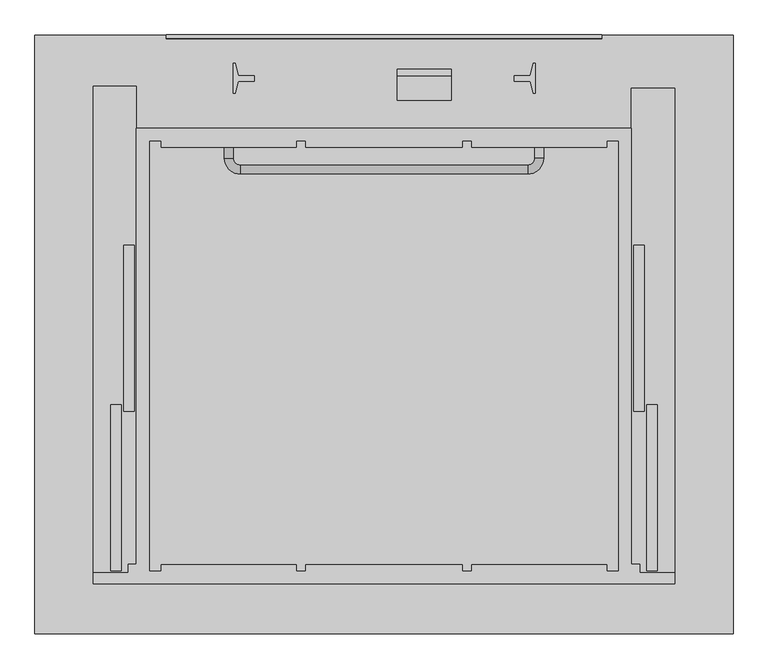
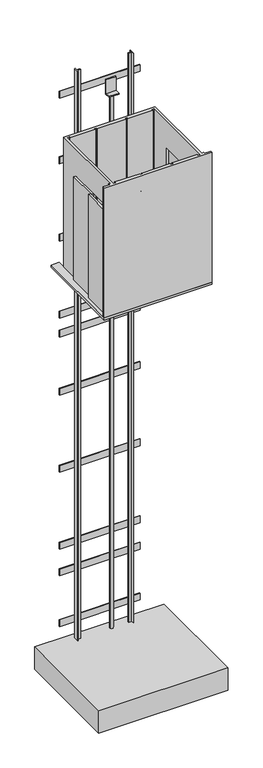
"""IFC4 building model written with IfcOpenShell, lengths in millimetres: proxy geometry, Orion_Savaria : Orion_Savaria."""

from ifc_helpers import new_model, si_unit, point, frame, frame_2d, origin, place, context, project, spatial, polyline, circle_curve, ellipse_curve, trimmed, segment, composite_curve, outline, extrude, faceted_brep, source, transform, mapped, element, save
from ifc_brep_helpers import plane_surface, cylinder_surface, revolved_surface, advanced_brep


def specialty_equipment_7eabac19(model_context):
    return source(origin(), model_context, "Body", "SolidModel", [
        faceted_brep([(852.0554501, -730.25, 8579.4453125), (852.0554501, -698.50091, 8579.4453125), (749.3454779, -698.50091, 8579.4453125), (749.3454779, -673.1, 8579.4453125), (723.9, -673.1, 8579.4453125), (723.9, 603.25, 8579.4453125), (-725.0554194, 603.25, 8579.4453125), (-725.0554194, -673.1, 8579.4453125), (-749.3454779, -673.1, 8579.4453125), (-749.3454779, -698.50091, 8579.4453125), (-850.9, -698.50091, 8579.4453125), (-850.9, -730.25, 8579.4453125), (-685.8, 565.15, 8579.4453125), (-654.05, 565.15, 8579.4453125), (-654.05, 546.1, 8579.4453125), (-255.5875, 546.1, 8579.4453125), (-255.5875, 565.15, 8579.4453125), (-230.1875, 565.15, 8579.4453125), (-230.1875, 546.1, 8579.4453125), (230.1875, 546.1, 8579.4453125), (230.1875, 565.15, 8579.4453125), (255.5875, 565.15, 8579.4453125), (255.5875, 546.1, 8579.4453125), (654.05, 546.1, 8579.4453125), (654.05, 565.15, 8579.4453125), (685.8, 565.15, 8579.4453125), (685.8, -692.15, 8579.4453125), (654.05, -692.15, 8579.4453125), (654.05, -673.1, 8579.4453125), (255.5875, -673.1, 8579.4453125), (255.5875, -692.15, 8579.4453125), (230.1875, -692.15, 8579.4453125), (230.1875, -673.1, 8579.4453125), (-230.1875, -673.1, 8579.4453125), (-230.1875, -692.15, 8579.4453125), (-255.5875, -692.15, 8579.4453125), (-255.5875, -673.1, 8579.4453125), (-654.05, -673.1, 8579.4453125), (-654.05, -692.15, 8579.4453125), (-685.8454577, -692.15, 8579.4453125), (852.0554501, -730.25, 6410.9203125), (-850.9, -730.25, 6410.9203125), (-850.9, -698.50091, 6410.9203125), (-749.3454779, -698.50091, 6410.9203125), (-749.3454779, -673.1, 6410.9203125), (-685.8454577, -673.1, 6410.9203125), (-685.8454577, -692.15, 6410.9203125), (-654.05, -692.15, 6410.9203125), (-654.05, -673.1, 6410.9203125), (-255.5875, -673.1, 6410.9203125), (-255.5875, -692.15, 6410.9203125), (-230.1875, -692.15, 6410.9203125), (-230.1875, -673.1, 6410.9203125), (230.1875, -673.1, 6410.9203125), (230.1875, -692.15, 6410.9203125), (255.5875, -692.15, 6410.9203125), (255.5875, -673.1, 6410.9203125), (654.05, -673.1, 6410.9203125), (654.05, -692.15, 6410.9203125), (685.8, -692.15, 6410.9203125), (685.8, -673.1, 6410.9203125), (749.3454779, -673.1, 6410.9203125), (749.3454779, -698.50091, 6410.9203125), (852.0554501, -698.50091, 6410.9203125), (-725.0554194, 603.25, 6410.9203125), (723.9, 603.25, 6410.9203125), (723.9, 241.3, 6410.9203125), (685.8, 241.3, 6410.9203125), (685.8, 565.15, 6410.9203125), (654.05, 565.15, 6410.9203125), (654.05, 546.1, 6410.9203125), (255.5875, 546.1, 6410.9203125), (255.5875, 565.15, 6410.9203125), (230.1875, 565.15, 6410.9203125), (230.1875, 546.1, 6410.9203125), (-230.1875, 546.1, 6410.9203125), (-230.1875, 565.15, 6410.9203125), (-255.5875, 565.15, 6410.9203125), (-255.5875, 546.1, 6410.9203125), (-654.05, 546.1, 6410.9203125), (-654.05, 565.15, 6410.9203125), (-685.8, 565.15, 6410.9203125), (-685.8, 241.3, 6410.9203125), (-725.0554194, 241.3, 6410.9203125), (685.8, -673.1, 8138.1203125), (723.9, -673.1, 8138.1203125), (685.8, 241.3, 8138.1203125), (-685.8454577, -673.1, 8138.1203125), (-685.8454577, 241.3, 8138.1203125), (-725.0554194, -673.1, 8138.1203125), (-725.0554194, 241.3, 8138.1203125), (723.9, 241.3, 8138.1203125)], [[[0, 1, 2, 3, 4, 5, 6, 7, 8, 9, 10, 11], [12, 13, 14, 15, 16, 17, 18, 19, 20, 21, 22, 23, 24, 25, 26, 27, 28, 29, 30, 31, 32, 33, 34, 35, 36, 37, 38, 39]], [[40, 41, 42, 43, 44, 45, 46, 47, 48, 49, 50, 51, 52, 53, 54, 55, 56, 57, 58, 59, 60, 61, 62, 63]], [[64, 65, 66, 67, 68, 69, 70, 71, 72, 73, 74, 75, 76, 77, 78, 79, 80, 81, 82, 83]], [[1, 0, 40, 63]], [[2, 1, 63, 62]], [[3, 2, 62, 61]], [[61, 60, 84, 85, 4, 3]], [[26, 25, 68, 67, 86, 84, 60, 59]], [[27, 26, 59, 58]], [[28, 27, 58, 57]], [[29, 28, 57, 56]], [[30, 29, 56, 55]], [[31, 30, 55, 54]], [[32, 31, 54, 53]], [[33, 32, 53, 52]], [[34, 33, 52, 51]], [[35, 34, 51, 50]], [[36, 35, 50, 49]], [[37, 36, 49, 48]], [[38, 37, 48, 47]], [[39, 38, 47, 46]], [[12, 39, 46, 45, 87, 88, 82, 81]], [[45, 44, 8, 7, 89, 87]], [[9, 8, 44, 43]], [[10, 9, 43, 42]], [[11, 10, 42, 41]], [[0, 11, 41, 40]], [[7, 6, 64, 83, 90, 89]], [[83, 82, 88, 90]], [[13, 12, 81, 80]], [[14, 13, 80, 79]], [[15, 14, 79, 78]], [[16, 15, 78, 77]], [[17, 16, 77, 76]], [[18, 17, 76, 75]], [[19, 18, 75, 74]], [[20, 19, 74, 73]], [[21, 20, 73, 72]], [[22, 21, 72, 71]], [[23, 22, 71, 70]], [[24, 23, 70, 69]], [[25, 24, 69, 68]], [[67, 66, 91, 86]], [[5, 4, 85, 91, 66, 65]], [[6, 5, 65, 64]], [[88, 87, 89, 90]], [[91, 85, 84, 86]]]),
        extrude(outline(polyline([(637.032, 866.775), (-637.032, 866.775), (-637.032, 876.3), (637.032, 876.3), (637.032, 866.775)])), frame((0.0, 0.0, 9039.4267343), z_axis=(0.0, 0.0, 1.0), x_axis=(1.0, 0.0, 0.0)), (0.0, 0.0, 1.0), 110.8208849),
        extrude(outline(polyline([(637.032, 866.775), (-637.032, 866.775), (-637.032, 876.3), (637.032, 876.3), (637.032, 866.775)])), frame((0.0, 0.0, 7939.7083343), z_axis=(0.0, 0.0, 1.0), x_axis=(1.0, 0.0, 0.0)), (0.0, 0.0, 1.0), 110.8208849),
        extrude(outline(polyline([(637.032, 866.775), (-637.032, 866.775), (-637.032, 876.3), (637.032, 876.3), (637.032, 866.775)])), frame((0.0, 0.0, 6652.2331343), z_axis=(0.0, 0.0, 1.0), x_axis=(1.0, 0.0, 0.0)), (0.0, 0.0, 1.0), 110.8208849),
        extrude(outline(polyline([(637.032, 866.775), (-637.032, 866.775), (-637.032, 876.3), (637.032, 876.3), (637.032, 866.775)])), frame((0.0, 0.0, 5364.7579343), z_axis=(0.0, 0.0, 1.0), x_axis=(1.0, 0.0, 0.0)), (0.0, 0.0, 1.0), 110.8208849),
        extrude(outline(polyline([(637.032, 866.775), (-637.032, 866.775), (-637.032, 876.3), (637.032, 876.3), (637.032, 866.775)])), frame((0.0, 0.0, 5047.6404), z_axis=(0.0, 0.0, 1.0), x_axis=(1.0, 0.0, 0.0)), (0.0, 0.0, 1.0), 110.8208849),
        extrude(outline(polyline([(637.032, 866.775), (-637.032, 866.775), (-637.032, 876.3), (637.032, 876.3), (637.032, 866.775)])), frame((0.0, 0.0, 4077.2827343), z_axis=(0.0, 0.0, 1.0), x_axis=(1.0, 0.0, 0.0)), (0.0, 0.0, 1.0), 110.8208849),
        extrude(outline(polyline([(637.032, 866.775), (-637.032, 866.775), (-637.032, 876.3), (637.032, 876.3), (637.032, 866.775)])), frame((0.0, 0.0, 2789.8075343), z_axis=(0.0, 0.0, 1.0), x_axis=(1.0, 0.0, 0.0)), (0.0, 0.0, 1.0), 110.8208849),
        extrude(outline(polyline([(637.032, 866.775), (-637.032, 866.775), (-637.032, 876.3), (637.032, 876.3), (637.032, 866.775)])), frame((0.0, 0.0, 1502.3323343), z_axis=(0.0, 0.0, 1.0), x_axis=(1.0, 0.0, 0.0)), (0.0, 0.0, 1.0), 110.8208849),
        extrude(outline(polyline([(637.032, 866.775), (-637.032, 866.775), (-637.032, 876.3), (637.032, 876.3), (637.032, 866.775)])), frame((0.0, 0.0, 1059.4848), z_axis=(0.0, 0.0, 1.0), x_axis=(1.0, 0.0, 0.0)), (0.0, 0.0, 1.0), 110.8208849),
        advanced_brep(
        [(-467.51875, 546.1, 7325.3203125), (-442.11875, 546.1, 7325.3203125), (-467.51875, 515.9327248, 7325.3203125), (-442.11875, 515.9327248, 7325.3203125), (-421.522529, 495.3365038, 7325.3203125), (-421.522529, 469.9365038, 7325.3203125), (421.48125, 469.9365038, 7325.3203125), (421.48125, 495.3365038, 7325.3203125), (442.11875, 515.9740038, 7325.3203125), (467.51875, 515.9740038, 7325.3203125), (467.51875, 546.1, 7325.3203125), (442.11875, 546.1, 7325.3203125)],
        [
            (0, 1, circle_curve(frame((-454.81875, 546.1, 7325.3203125), z_axis=(0.0, 1.0, 0.0), x_axis=(1.0, 0.0, 0.0)), 12.7)),
            (1, 0, circle_curve(frame((-454.81875, 546.1, 7325.3203125), z_axis=(0.0, 1.0, 0.0), x_axis=(1.0, 0.0, 0.0)), 12.7)),
            (0, 2),
            (2, 3, circle_curve(frame((-454.81875, 515.9327248, 7325.3203125), z_axis=(0.0, 1.0, 0.0), x_axis=(1.0, 0.0, 0.0)), 12.7)),
            (3, 1),
            (3, 2, circle_curve(frame((-454.81875, 515.9327248, 7325.3203125), z_axis=(0.0, 1.0, 0.0), x_axis=(1.0, 0.0, 0.0)), 12.7)),
            (4, 3, circle_curve(frame((-421.522529, 515.9327248, 7325.3203125), z_axis=(0.0, 0.0, -1.0), x_axis=(-1.0, 0.0, 0.0)), 20.596221)),
            (2, 5, circle_curve(frame((-421.522529, 515.9327248, 7325.3203125), z_axis=(0.0, 0.0, 1.0), x_axis=(-1.0, 0.0, 0.0)), 45.996221)),
            (5, 4, circle_curve(frame((-421.522529, 482.6365038, 7325.3203125), z_axis=(-1.0, 0.0, 0.0), x_axis=(0.0, 1.0, 0.0)), 12.7)),
            (4, 5, circle_curve(frame((-421.522529, 482.6365038, 7325.3203125), z_axis=(-1.0, 0.0, 0.0), x_axis=(0.0, 1.0, 0.0)), 12.7)),
            (5, 6),
            (6, 7, circle_curve(frame((421.48125, 482.6365038, 7325.3203125), z_axis=(-1.0, 0.0, 0.0), x_axis=(0.0, 1.0, 0.0)), 12.7)),
            (7, 4),
            (7, 6, circle_curve(frame((421.48125, 482.6365038, 7325.3203125), z_axis=(-1.0, 0.0, 0.0), x_axis=(0.0, 1.0, 0.0)), 12.7)),
            (8, 7, circle_curve(frame((421.48125, 515.9740038, 7325.3203125), z_axis=(0.0, 0.0, -1.0), x_axis=(0.0, -1.0, 0.0)), 20.6375)),
            (6, 9, circle_curve(frame((421.48125, 515.9740038, 7325.3203125), z_axis=(0.0, 0.0, 1.0), x_axis=(0.0, -1.0, 0.0)), 46.0375)),
            (9, 8, circle_curve(frame((454.81875, 515.9740038, 7325.3203125), z_axis=(0.0, -1.0, 0.0), x_axis=(-1.0, 0.0, 0.0)), 12.7)),
            (8, 9, circle_curve(frame((454.81875, 515.9740038, 7325.3203125), z_axis=(0.0, -1.0, 0.0), x_axis=(-1.0, 0.0, 0.0)), 12.7)),
            (10, 11, circle_curve(frame((454.81875, 546.1, 7325.3203125), z_axis=(0.0, 1.0, 0.0), x_axis=(-1.0, 0.0, 0.0)), 12.7)),
            (11, 10, circle_curve(frame((454.81875, 546.1, 7325.3203125), z_axis=(0.0, 1.0, 0.0), x_axis=(-1.0, 0.0, 0.0)), 12.7)),
            (9, 10),
            (11, 8),
        ],
        [
            plane_surface(frame((-454.81875, 546.1, 6410.9203125), z_axis=(0.0, 1.0, 0.0), x_axis=(0.0, 0.0, 1.0))),
            cylinder_surface(frame((-454.81875, 546.1, 7325.3203125), z_axis=(0.0, 1.0, 0.0), x_axis=(1.0, 0.0, 0.0)), 12.7),
            revolved_surface(trimmed(ellipse_curve(frame((-454.81875, 515.9327248, 7325.3203125), z_axis=(0.0, 1.0, 0.0), x_axis=(1.0, 0.0, 0.0)), 12.7, 12.7), [point((-467.51875, 515.9327248, 7325.3203125))], [point((-442.11875, 515.9327248, 7325.3203125))], True, "CARTESIAN"), (-421.522529, 515.9327248, 6410.9203125), (0.0, 0.0, 1.0)),
            revolved_surface(trimmed(ellipse_curve(frame((-454.81875, 515.9327248, 7325.3203125), z_axis=(0.0, 1.0, 0.0), x_axis=(1.0, 0.0, 0.0)), 12.7, 12.7), [point((-442.11875, 515.9327248, 7325.3203125))], [point((-467.51875, 515.9327248, 7325.3203125))], True, "CARTESIAN"), (-421.522529, 515.9327248, 6410.9203125), (0.0, 0.0, 1.0)),
            cylinder_surface(frame((-421.522529, 482.6365038, 7325.3203125), z_axis=(-1.0, 0.0, 0.0), x_axis=(0.0, 1.0, 0.0)), 12.7),
            revolved_surface(trimmed(ellipse_curve(frame((421.48125, 482.6365038, 7325.3203125), z_axis=(-1.0, 0.0, 0.0), x_axis=(0.0, 1.0, 0.0)), 12.7, 12.7), [point((421.48125, 469.9365038, 7325.3203125))], [point((421.48125, 495.3365038, 7325.3203125))], True, "CARTESIAN"), (421.48125, 515.9740038, 6410.9203125), (0.0, 0.0, 1.0)),
            revolved_surface(trimmed(ellipse_curve(frame((421.48125, 482.6365038, 7325.3203125), z_axis=(-1.0, 0.0, 0.0), x_axis=(0.0, 1.0, 0.0)), 12.7, 12.7), [point((421.48125, 495.3365038, 7325.3203125))], [point((421.48125, 469.9365038, 7325.3203125))], True, "CARTESIAN"), (421.48125, 515.9740038, 6410.9203125), (0.0, 0.0, 1.0)),
            plane_surface(frame((454.81875, 546.1, 6410.9203125), z_axis=(0.0, 1.0, 0.0), x_axis=(0.0, 0.0, 1.0))),
            cylinder_surface(frame((454.81875, 515.9740038, 7325.3203125), z_axis=(0.0, -1.0, 0.0), x_axis=(-1.0, 0.0, 0.0)), 12.7),
        ],
        [
            (0, [[1, 2]]),
            (1, [[-1, 3, 4, 5]]),
            (1, [[-2, -5, 6, -3]]),
            (2, [[7, -4, 8, 9]]),
            (3, [[-8, -6, -7, 10]]),
            (4, [[-9, 11, 12, 13]]),
            (4, [[-10, -13, 14, -11]]),
            (5, [[15, -12, 16, 17]]),
            (6, [[-16, -14, -15, 18]]),
            (7, [[19, 20]]),
            (8, [[-17, 21, -20, 22]]),
            (8, [[-18, -22, -19, -21]]),
        ],
    ),
        extrude(outline(polyline([(-768.7672018, -692.1095587), (-800.1303562, -692.1095587), (-800.1303562, -206.3094293), (-768.7672018, -206.3094293), (-768.7672018, -692.1095587)])), frame((0.0, 0.0, 6410.9203125), z_axis=(0.0, 0.0, 1.0), x_axis=(1.0, 0.0, 0.0)), (0.0, 0.0, 1.0), 1727.2),
        extrude(outline(polyline([(-731.0388795, -225.3543666), (-762.4020338, -225.3543666), (-762.4020338, 260.4457627), (-731.0388795, 260.4457627), (-731.0388795, -225.3543666)])), frame((0.0, 0.0, 6410.9203125), z_axis=(0.0, 0.0, 1.0), x_axis=(1.0, 0.0, 0.0)), (0.0, 0.0, 1.0), 1727.2),
        extrude(outline(polyline([(762.4020338, 260.4457627), (762.4020338, -225.3543666), (731.0388795, -225.3543666), (731.0388795, 260.4457627), (762.4020338, 260.4457627)])), frame((0.0, 0.0, 6410.9203125), z_axis=(0.0, 0.0, 1.0), x_axis=(1.0, 0.0, 0.0)), (0.0, 0.0, 1.0), 1727.2),
        extrude(outline(polyline([(800.1303562, -206.3094293), (800.1303562, -692.1095587), (768.7672018, -692.1095587), (768.7672018, -206.3094293), (800.1303562, -206.3094293)])), frame((0.0, 0.0, 6410.9203125), z_axis=(0.0, 0.0, 1.0), x_axis=(1.0, 0.0, 0.0)), (0.0, 0.0, 1.0), 1727.2),
        extrude(outline(polyline([(757.3243669, 9172.7005343), (776.4612532, 9172.7005343), (776.4612532, 8925.1536), (685.2397852, 8925.1536), (685.2397852, 8941.3461), (757.3243669, 8941.3461), (757.3243669, 9172.7005343)])), frame((38.1170768, 0.0, 0.0), z_axis=(1.0, 0.0, 0.0), x_axis=(0.0, 1.0, 0.0)), (0.0, 0.0, 1.0), 158.4231828),
        extrude(outline(polyline([(1022.35, 876.3), (1022.35, -876.3), (-1022.35, -876.3), (-1022.35, 876.3), (1022.35, 876.3)])), frame((0.0, 0.0, -375.5429688), z_axis=(0.0, 0.0, 1.0), x_axis=(1.0, 0.0, 0.0)), (0.0, 0.0, 1.0), 375.5429687),
        extrude(outline(polyline([(637.032, 866.775), (-637.032, 866.775), (-637.032, 876.3), (637.032, 876.3), (637.032, 866.775)])), frame((0.0, 0.0, 213.0291151), z_axis=(0.0, 0.0, 1.0), x_axis=(1.0, 0.0, 0.0)), (0.0, 0.0, 1.0), 110.8208849),
        extrude(outline(polyline([(852.0554501, -730.25), (-850.9, -730.25), (-850.9, 727.1554488), (-725.0554194, 727.1554488), (-725.0554194, 603.25), (723.9, 603.25), (723.9, 720.7245399), (852.0554501, 720.7245399), (852.0554501, -730.25)])), frame((0.0, 0.0, 6375.796875), z_axis=(0.0, 0.0, 1.0), x_axis=(1.0, 0.0, 0.0)), (0.0, 0.0, 1.0), 35.1234375),
        extrude(outline(composite_curve([segment(trimmed(circle_curve(frame_2d((117.4758824, 749.3)), 25.4), [point((92.0758824, 749.3))], [point((142.8758824, 749.3))], False, "CARTESIAN"), True, "CONTINUOUS"), segment(trimmed(circle_curve(frame_2d((117.4758824, 749.3)), 25.4), [point((142.8758824, 749.3))], [point((92.0758824, 749.3))], False, "CARTESIAN"), True, "CONTINUOUS")], self_intersect=False)), frame((0.0, 0.0, -375.5429688), z_axis=(0.0, 0.0, 1.0), x_axis=(1.0, 0.0, 0.0)), (0.0, 0.0, 1.0), 9300.6965687),
        extrude(outline(polyline([(-441.8738388, 704.85), (-441.8738388, 793.75), (-435.5238388, 793.75), (-427.0441691, 757.3243669), (-379.9361344, 757.3243669), (-379.9361344, 741.2756331), (-427.0441691, 741.2756331), (-435.5238388, 704.85), (-441.8738388, 704.85)])), frame((0.0, 0.0, -375.5429688), z_axis=(0.0, 0.0, 1.0), x_axis=(1.0, 0.0, 0.0)), (0.0, 0.0, 1.0), 9884.0837687),
        extrude(outline(polyline([(442.9125, 704.85), (436.5625, 704.85), (428.0828303, 741.2756331), (380.9747956, 741.2756331), (380.9747956, 757.3243669), (428.0828303, 757.3243669), (436.5625, 793.75), (442.9125, 793.75), (442.9125, 704.85)])), frame((0.0, 0.0, -375.5429688), z_axis=(0.0, 0.0, 1.0), x_axis=(1.0, 0.0, 0.0)), (0.0, 0.0, 1.0), 9884.0837687),
    ])


if __name__ == "__main__":
    model = new_model("IFC4")
    model_context = context("Model", 3, world=origin())
    ifc_project = project(units=[si_unit("LENGTHUNIT", "METRE", prefix="MILLI")], contexts=[model_context])
    site = spatial("IfcSite", under=ifc_project)
    building = spatial("IfcBuilding", under=site)
    placement = place(None, origin())
    specialty_equipment_shape = specialty_equipment_7eabac19(model_context)
    element("IfcBuildingElementProxy", 1, Name="Orion_Savaria : Orion_Savaria", ObjectType="Orion_Savaria : Orion_Savaria", at=placement, inside=building, context=model_context, shape_type="MappedRepresentation", body=[
        mapped(specialty_equipment_shape, transform((0.0, 0.0, 0.0), x_axis=(1.0, 0.0, 0.0), y_axis=(0.0, 1.0, 0.0), z_axis=(0.0, 0.0, 1.0))),
    ])
    save(model, "model.ifc")
